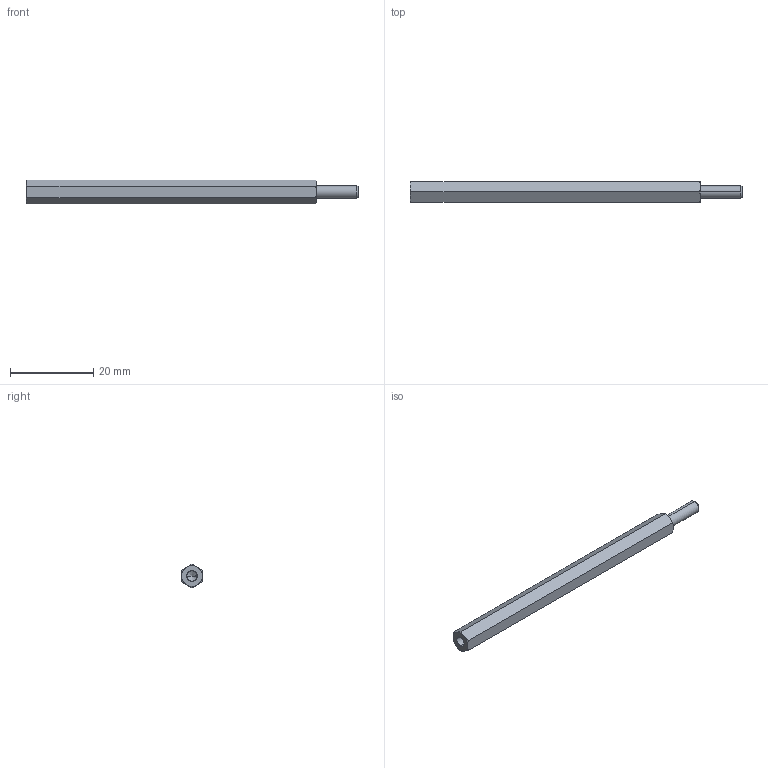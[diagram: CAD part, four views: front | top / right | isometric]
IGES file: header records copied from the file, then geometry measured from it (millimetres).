
Start section: SolidWorks IGES file using analytic representation for surfaces
Global section: file name: C:\Users\render1\Desktop\P0185_IGES\P0185.03-70.igs; native system: SolidWorks 2009; preprocessor: SolidWorks 2009; author: render1; date: 130627.111928; units: millimetre
Bounding box: 80 x 5 x 5.77 mm (x, y, z)
Surface area: 1425.8 mm2 (no closed solid volume)
Topology: 0 solids, 0 shells, 29 faces, 324 edges, 322 vertices
Faces by surface type: revolution 20, bspline 9
